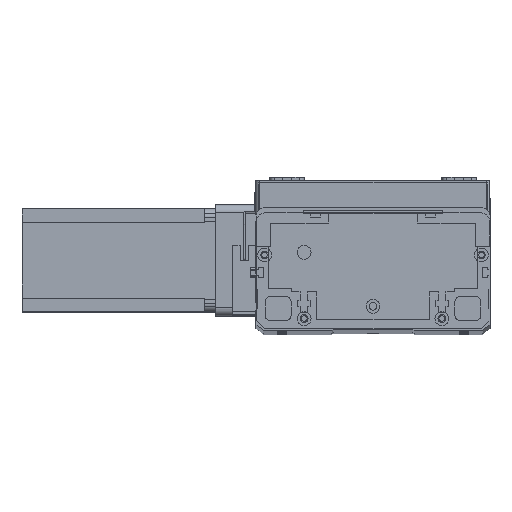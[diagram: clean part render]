
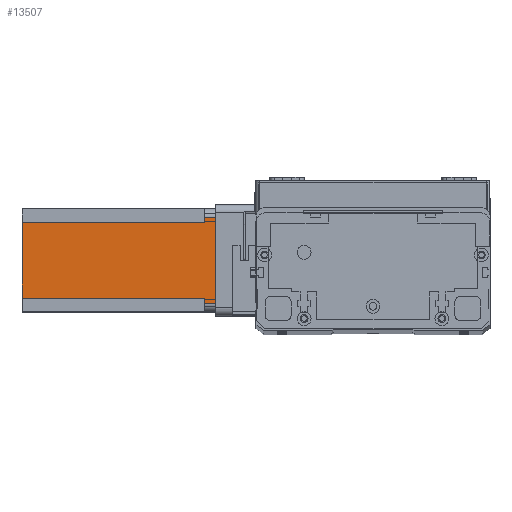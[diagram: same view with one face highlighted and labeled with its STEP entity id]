
A CAD part, top view. The second image highlights one B-rep face of the part: STEP entity #13507.
In plain terms, the highlighted planar face has unit normal (0, 0, 1) as drawn and (0, -1, 0) by its records, which use the part's own axes.
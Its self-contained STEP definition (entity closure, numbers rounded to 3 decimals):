
#1484 = CARTESIAN_POINT ( 'NONE',  ( 52., 0., -112.5 ) ) ;
#1512 = VECTOR ( 'NONE', #9103, 1000. ) ;
#1643 = VERTEX_POINT ( 'NONE', #19399 ) ;
#1718 = CARTESIAN_POINT ( 'NONE',  ( 52., 0., -6.5 ) ) ;
#2120 = ORIENTED_EDGE ( 'NONE', *, *, #6301, .F. ) ;
#2369 = VECTOR ( 'NONE', #4387, 1000. ) ;
#2765 = EDGE_CURVE ( 'NONE', #6412, #9423, #9003, .T. ) ;
#2961 = CARTESIAN_POINT ( 'NONE',  ( 52., 0., -112.5 ) ) ;
#3815 = CARTESIAN_POINT ( 'NONE',  ( 0., 0., 0. ) ) ;
#4375 = ORIENTED_EDGE ( 'NONE', *, *, #16170, .T. ) ;
#4387 = DIRECTION ( 'NONE',  ( 0., 0., -1. ) ) ;
#4663 = VECTOR ( 'NONE', #5127, 1000. ) ;
#4693 = DIRECTION ( 'NONE',  ( 1., 0., 0. ) ) ;
#4768 = VERTEX_POINT ( 'NONE', #16918 ) ;
#5066 = DIRECTION ( 'NONE',  ( 0., -1., 0. ) ) ;
#5127 = DIRECTION ( 'NONE',  ( 0., 0., 1. ) ) ;
#5797 = VECTOR ( 'NONE', #17258, 1000. ) ;
#6301 = EDGE_CURVE ( 'NONE', #9423, #16452, #7094, .T. ) ;
#6310 = CARTESIAN_POINT ( 'NONE',  ( 5., 0., -112.5 ) ) ;
#6412 = VERTEX_POINT ( 'NONE', #19958 ) ;
#6456 = AXIS2_PLACEMENT_3D ( 'NONE', #23096, #5066, #19193 ) ;
#7094 = LINE ( 'NONE', #16822, #5797 ) ;
#9003 = LINE ( 'NONE', #9770, #20929 ) ;
#9103 = DIRECTION ( 'NONE',  ( 0., 0., -1. ) ) ;
#9423 = VERTEX_POINT ( 'NONE', #20714 ) ;
#9606 = EDGE_CURVE ( 'NONE', #1643, #4768, #16915, .T. ) ;
#9704 = CARTESIAN_POINT ( 'NONE',  ( 0., 0., -112.5 ) ) ;
#9744 = DIRECTION ( 'NONE',  ( 0., 0., 1. ) ) ;
#9770 = CARTESIAN_POINT ( 'NONE',  ( 8., 0., -112.5 ) ) ;
#10062 = ORIENTED_EDGE ( 'NONE', *, *, #21259, .T. ) ;
#11802 = VERTEX_POINT ( 'NONE', #1484 ) ;
#11835 = VERTEX_POINT ( 'NONE', #21832 ) ;
#13155 = LINE ( 'NONE', #6310, #2369 ) ;
#13507 = ADVANCED_FACE ( 'NONE', ( #23900 ), #17206, .T. ) ;
#13716 = VERTEX_POINT ( 'NONE', #1718 ) ;
#13740 = DIRECTION ( 'NONE',  ( 1., 0., 0. ) ) ;
#14274 = VECTOR ( 'NONE', #13740, 1000. ) ;
#14613 = EDGE_CURVE ( 'NONE', #13716, #11802, #17653, .T. ) ;
#14789 = LINE ( 'NONE', #17267, #4663 ) ;
#15253 = VECTOR ( 'NONE', #22121, 1000. ) ;
#16170 = EDGE_CURVE ( 'NONE', #1643, #16452, #13155, .T. ) ;
#16452 = VERTEX_POINT ( 'NONE', #21301 ) ;
#16822 = CARTESIAN_POINT ( 'NONE',  ( 8., 0., -6.5 ) ) ;
#16915 = LINE ( 'NONE', #3815, #17563 ) ;
#16918 = CARTESIAN_POINT ( 'NONE',  ( 55., 0., 0. ) ) ;
#16955 = ORIENTED_EDGE ( 'NONE', *, *, #2765, .F. ) ;
#17206 = PLANE ( 'NONE',  #6456 ) ;
#17258 = DIRECTION ( 'NONE',  ( -1., 0., 0. ) ) ;
#17267 = CARTESIAN_POINT ( 'NONE',  ( 55., 0., -112.5 ) ) ;
#17563 = VECTOR ( 'NONE', #4693, 1000. ) ;
#17653 = LINE ( 'NONE', #2961, #1512 ) ;
#17886 = ORIENTED_EDGE ( 'NONE', *, *, #18330, .T. ) ;
#18320 = ORIENTED_EDGE ( 'NONE', *, *, #14613, .F. ) ;
#18330 = EDGE_CURVE ( 'NONE', #6412, #11802, #20262, .T. ) ;
#19193 = DIRECTION ( 'NONE',  ( 0., 0., -1. ) ) ;
#19399 = CARTESIAN_POINT ( 'NONE',  ( 5., 0., 0. ) ) ;
#19846 = ORIENTED_EDGE ( 'NONE', *, *, #23483, .T. ) ;
#19958 = CARTESIAN_POINT ( 'NONE',  ( 8., 0., -112.5 ) ) ;
#20262 = LINE ( 'NONE', #9704, #14274 ) ;
#20714 = CARTESIAN_POINT ( 'NONE',  ( 8., 0., -6.5 ) ) ;
#20813 = EDGE_LOOP ( 'NONE', ( #10062, #19846, #23519, #4375, #2120, #16955, #17886, #18320 ) ) ;
#20929 = VECTOR ( 'NONE', #9744, 1000. ) ;
#21195 = LINE ( 'NONE', #26016, #15253 ) ;
#21259 = EDGE_CURVE ( 'NONE', #13716, #11835, #21195, .T. ) ;
#21301 = CARTESIAN_POINT ( 'NONE',  ( 5., 0., -6.5 ) ) ;
#21832 = CARTESIAN_POINT ( 'NONE',  ( 55., 0., -6.5 ) ) ;
#22121 = DIRECTION ( 'NONE',  ( 1., 0., 0. ) ) ;
#23096 = CARTESIAN_POINT ( 'NONE',  ( 0., 0., -112.5 ) ) ;
#23483 = EDGE_CURVE ( 'NONE', #11835, #4768, #14789, .T. ) ;
#23519 = ORIENTED_EDGE ( 'NONE', *, *, #9606, .F. ) ;
#23900 = FACE_OUTER_BOUND ( 'NONE', #20813, .T. ) ;
#26016 = CARTESIAN_POINT ( 'NONE',  ( 52., 0., -6.5 ) ) ;
